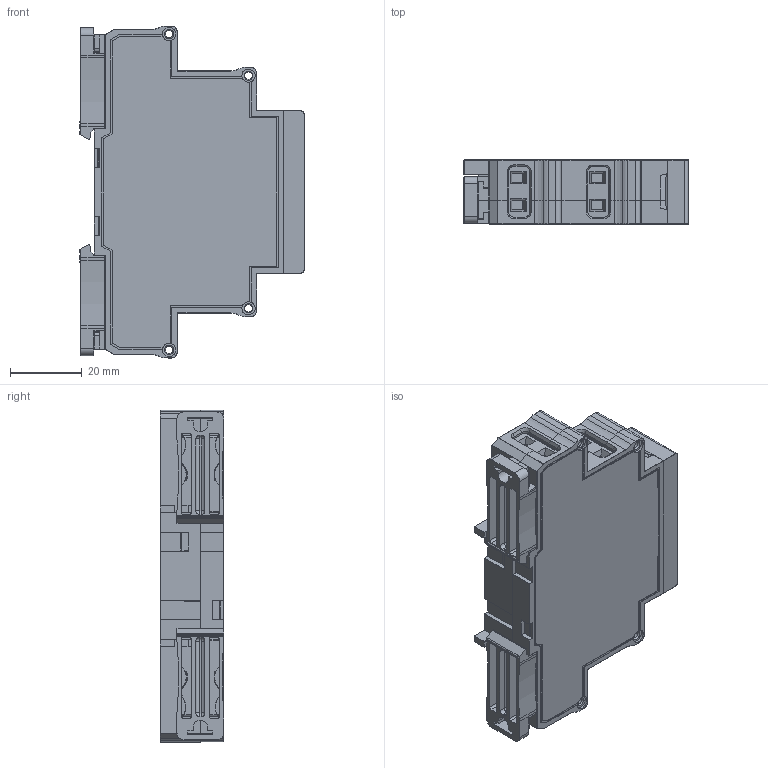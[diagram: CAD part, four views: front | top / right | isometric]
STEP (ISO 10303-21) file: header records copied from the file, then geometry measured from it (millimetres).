
FILE_DESCRIPTION(('STEP AP242'), '1');
FILE_NAME('ﾑ碚濱ﾐﾊﾍ-3-16-15', '', ('UNSPECIFIED'), ('UNSPECIFIED'), 'C3D Converter', 'C3D Toolkit', '');
FILE_SCHEMA(('AP242_MANAGED_MODEL_BASED_3D_ENGINEERING_MIM_LF { 1 0 10303 442 1 1 4 }'));
Length unit declared in the file: millimetre
Products named in the file (14): Case_UC1-2sR-2024_SimpleModel_6mm; Case_UC1-2sR-2024_SimpleModel_11mm; Case_UC1-2sR_Face_2024_18mm__FR.FP.0000023; Case13-18-23mm_2step_Lock_v01a_Build20140909_1552; DG128-5.08_Configurable_5.08x3; РКН-3-15-15 mark L2-L3; РКН-3-15-15 mark L1-N; РКН-3-15-15 mark 12-11-14; РКН-3-15-15 mark 22-21-24
Assembly tree (18 placements, depth 2):
  (unnamed)
    Case_UC1-2sR-2024_SimpleModel_6mm
    Case_UC1-2sR-2024_SimpleModel_11mm
    Case_UC1-2sR_Face_2024_18mm__FR.FP.0000023
    Case13-18-23mm_2step_Lock_v01a_Build20140909_1552  x2
    (unnamed)  x2
    DG128-5.08_Configurable_5.08x3  x2
    (unnamed)  x3
    РКН-3-15-15 mark L2-L3
    РКН-3-15-15 mark L1-N
    РКН-3-15-15 mark 12-11-14
    РКН-3-15-15 mark 22-21-24
    (unnamed)
    (unnamed)
Bounding box: 62.53 x 17.75 x 92.4 mm (x, y, z)
Volume: 26040.6 mm3; surface area: 37371.2 mm2
Topology: 45 solids, 45 shells, 3508 faces, 9718 edges, 6303 vertices
Faces by surface type: plane 2743, cylinder 375, extrusion 127, torus 99, bspline 88, cone 40, sphere 36
Full cylindrical faces by diameter (mm): 1.238 x6, 2.1 x11, 2.2 x3, 3.7 x8, 3.9 x10
Entity records: 133951 total; most frequent: CARTESIAN_POINT 25033, ORIENTED_EDGE 17990, DIRECTION 15390, EDGE_CURVE 8995, VECTOR 7692, LINE 7565, VERTEX_POINT 5891, AXIS2_PLACEMENT_3D 3849
